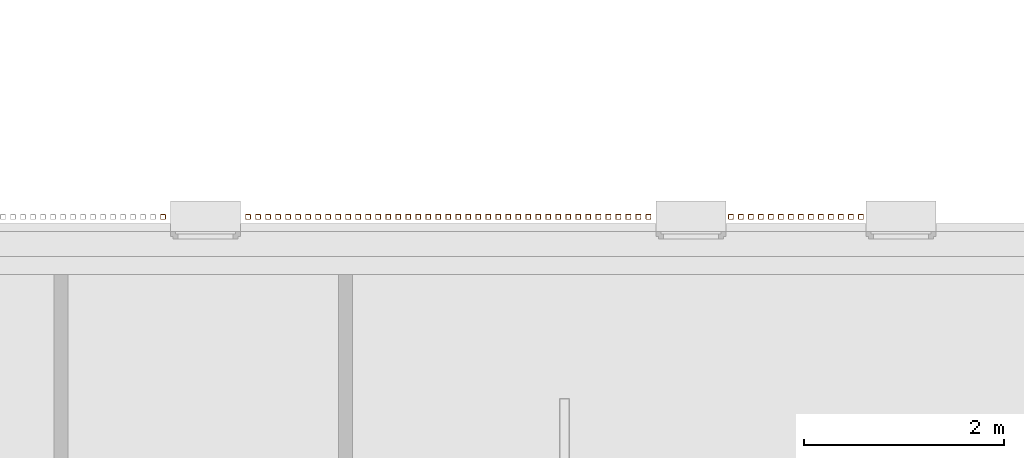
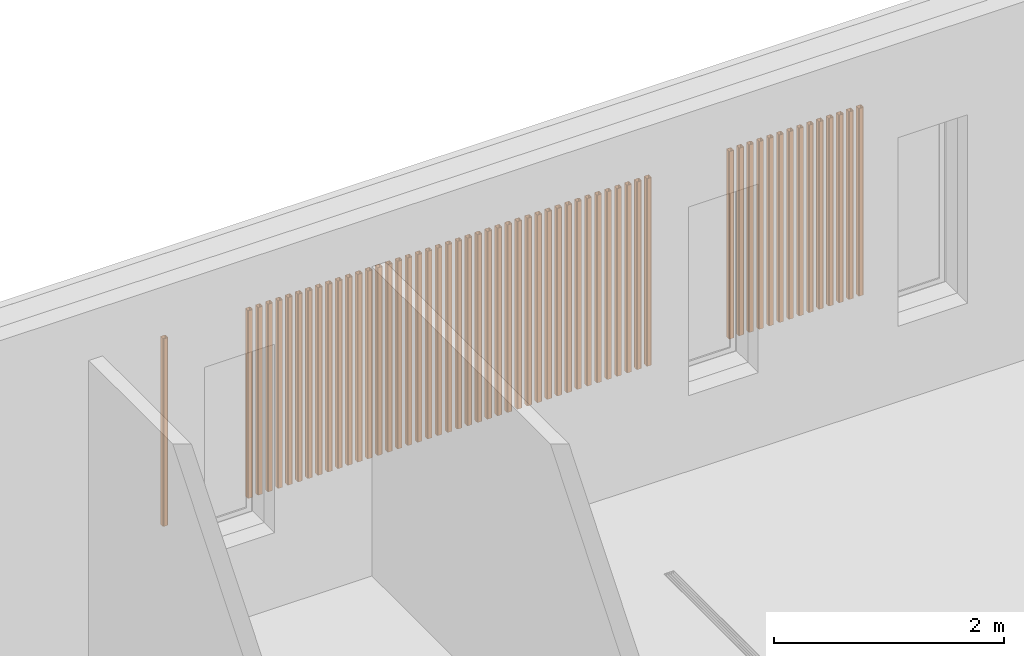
# One storey, part 76 of 112: 56 proxies.
"""IFC2X3 building model written with IfcOpenShell, lengths in millimetres."""

from ifc_helpers import new_model, entity, si_unit, converted_unit, derived_unit, money_unit, direction, frame, origin_with_axes, place, context, subcontext, project, spatial, faceted_brep, source, transform, mapped, material, type_object, element, save


model = new_model("IFC2X3")

# Units and contexts
model_context = context("Model", 3, precision=0.01, world=origin_with_axes(), true_north=direction((0.0, 1.0)))
body_context = subcontext(model_context, "Body", "Model", "MODEL_VIEW")
ifc_project = project(units=[si_unit("LENGTHUNIT", "METRE", prefix="MILLI"), si_unit("AREAUNIT", "SQUARE_METRE"), si_unit("VOLUMEUNIT", "CUBIC_METRE"), converted_unit("PLANEANGLEUNIT", "DEGREE", entity("IfcPlaneAngleMeasure", 0.0174532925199), si_unit("PLANEANGLEUNIT", "RADIAN"), dimensions=[0, 0, 0, 0, 0, 0, 0]), si_unit("SOLIDANGLEUNIT", "STERADIAN"), money_unit("EUR"), converted_unit("TIMEUNIT", "Year", entity("IfcTimeMeasure", 31556926.0), si_unit("TIMEUNIT", "SECOND"), dimensions=[0, 0, 1, 0, 0, 0, 0]), si_unit("MASSUNIT", "GRAM", prefix="KILO"), si_unit("THERMODYNAMICTEMPERATUREUNIT", "DEGREE_CELSIUS"), si_unit("LUMINOUSINTENSITYUNIT", "LUMEN"), si_unit("ENERGYUNIT", "JOULE", prefix="MEGA"), derived_unit("THERMALCONDUCTANCEUNIT", [(si_unit("POWERUNIT", "WATT"), 1), (si_unit("LENGTHUNIT", "METRE"), -1), (si_unit("THERMODYNAMICTEMPERATUREUNIT", "KELVIN"), -1)]), derived_unit("SPECIFICHEATCAPACITYUNIT", [(si_unit("ENERGYUNIT", "JOULE"), 1), (si_unit("MASSUNIT", "GRAM", prefix="KILO"), -1), (si_unit("THERMODYNAMICTEMPERATUREUNIT", "KELVIN"), -1)]), derived_unit("MASSDENSITYUNIT", [(si_unit("MASSUNIT", "GRAM", prefix="KILO"), 1), (si_unit("VOLUMEUNIT", "CUBIC_METRE"), -1)])], contexts=[model_context])

# Site, building, storey
site_placement = place(None, origin_with_axes())
site = spatial("IfcSite", under=ifc_project, at=site_placement, Name="Politse- ja Piirivalveameti ning Päästeameti ühishoone", CompositionType="ELEMENT")
building_placement = place(site_placement, origin_with_axes())
building = spatial("IfcBuilding", under=site, at=building_placement, Name="Politse- ja Piirivalveameti ning Päästeameti ühishoone", CompositionType="ELEMENT")
storey_placement = place(building_placement, origin_with_axes())
storey = spatial("IfcBuildingStorey", under=building, at=storey_placement, Name="Esimene korrus", CompositionType="ELEMENT", Elevation=0.0)

# Proxies
ifc_material = material(Name="ET-05_Teras")
building_element_proxy_type = type_object("IfcBuildingElementProxyType", Name="SHS Cold-Formed Column 23", PredefinedType="NOTDEFINED")
shared_shape = source(origin_with_axes(), body_context, "Body", "Brep", [
    faceted_brep([(19.0, -25.0, 0.0), (19.0, -25.0, 1990.0), (-19.0, -25.0, 1990.0), (-19.0, -25.0, 0.0), (23.2426406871, -23.2426406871, 0.0), (23.2426406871, -23.2426406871, 1990.0), (25.0, -19.0, 1990.0), (25.0, 19.0, 1990.0), (23.2426406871, 23.2426406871, 1990.0), (19.0, 25.0, 1990.0), (-19.0, 25.0, 1990.0), (-23.2426406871, 23.2426406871, 1990.0), (-25.0, 19.0, 1990.0), (-25.0, -19.0, 1990.0), (-23.2426406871, -23.2426406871, 1990.0), (19.0, -22.0, 1990.0), (-19.0, -22.0, 1990.0), (-21.1213203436, -21.1213203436, 1990.0), (-22.0, -19.0, 1990.0), (-22.0, 19.0, 1990.0), (-21.1213203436, 21.1213203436, 1990.0), (-19.0, 22.0, 1990.0), (19.0, 22.0, 1990.0), (21.1213203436, 21.1213203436, 1990.0), (22.0, 19.0, 1990.0), (22.0, -19.0, 1990.0), (21.1213203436, -21.1213203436, 1990.0), (-23.2426406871, -23.2426406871, 0.0), (-25.0, -19.0, 0.0), (-25.0, 19.0, 0.0), (-23.2426406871, 23.2426406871, 0.0), (-19.0, 25.0, 0.0), (19.0, 25.0, 0.0), (23.2426406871, 23.2426406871, 0.0), (25.0, 19.0, 0.0), (25.0, -19.0, 0.0), (19.0, -22.0, 0.0), (21.1213203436, -21.1213203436, 0.0), (22.0, -19.0, 0.0), (22.0, 19.0, 0.0), (21.1213203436, 21.1213203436, 0.0), (19.0, 22.0, 0.0), (-19.0, 22.0, 0.0), (-21.1213203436, 21.1213203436, 0.0), (-22.0, 19.0, 0.0), (-22.0, -19.0, 0.0), (-21.1213203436, -21.1213203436, 0.0), (-19.0, -22.0, 0.0)], [[[0, 1, 2, 3]], [[4, 5, 1, 0]], [[1, 5, 6, 7, 8, 9, 10, 11, 12, 13, 14, 2], [15, 16, 17, 18, 19, 20, 21, 22, 23, 24, 25, 26]], [[3, 2, 14, 27]], [[0, 3, 27, 28, 29, 30, 31, 32, 33, 34, 35, 4], [36, 37, 38, 39, 40, 41, 42, 43, 44, 45, 46, 47]], [[35, 6, 5, 4]], [[34, 7, 6, 35]], [[33, 8, 7, 34]], [[32, 9, 8, 33]], [[31, 10, 9, 32]], [[30, 11, 10, 31]], [[29, 12, 11, 30]], [[28, 13, 12, 29]], [[27, 14, 13, 28]], [[47, 16, 15, 36]], [[46, 17, 16, 47]], [[45, 18, 17, 46]], [[44, 19, 18, 45]], [[43, 20, 19, 44]], [[42, 21, 20, 43]], [[41, 22, 21, 42]], [[40, 23, 22, 41]], [[39, 24, 23, 40]], [[38, 25, 24, 39]], [[37, 26, 25, 38]], [[36, 15, 26, 37]]]),
])
for number, where, z_axis, x_axis in (
    (1, (55784.5448808, 21574.5962726, 810.0), (0.0, 0.0, 1.0), (1.30049800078e-07, -1.0, 0.0)),
    (2, (55884.5448808, 21574.5962856, 810.0), (0.0, 0.0, 1.0), (1.30049800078e-07, -1.0, 0.0)),
    (3, (55984.5448808, 21574.5962986, 810.0), (0.0, 0.0, 1.0), (1.30049800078e-07, -1.0, 0.0)),
    (4, (56084.5448808, 21574.5963116, 810.0), (0.0, 0.0, 1.0), (1.30049800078e-07, -1.0, 0.0)),
    (5, (56184.5448808, 21574.5963246, 810.0), (0.0, 0.0, 1.0), (1.30049800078e-07, -1.0, 0.0)),
    (6, (55284.5448808, 21574.5962075, 810.0), (0.0, 0.0, 1.0), (1.30049800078e-07, -1.0, 0.0)),
    (7, (55384.5448808, 21574.5962205, 810.0), (0.0, 0.0, 1.0), (1.30049800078e-07, -1.0, 0.0)),
    (8, (55484.5448808, 21574.5962336, 810.0), (0.0, 0.0, 1.0), (1.30049800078e-07, -1.0, 0.0)),
    (9, (55584.5448808, 21574.5962466, 810.0), (0.0, 0.0, 1.0), (1.30049800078e-07, -1.0, 0.0)),
    (10, (55684.5448808, 21574.5962596, 810.0), (0.0, 0.0, 1.0), (1.30049800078e-07, -1.0, 0.0)),
    (11, (54884.5448808, 21574.5961555, 810.0), (0.0, 0.0, 1.0), (1.30049800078e-07, -1.0, 0.0)),
    (12, (54984.5448808, 21574.5961685, 810.0), (0.0, 0.0, 1.0), (1.30049800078e-07, -1.0, 0.0)),
    (13, (55084.5448808, 21574.5961815, 810.0), (0.0, 0.0, 1.0), (1.30049800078e-07, -1.0, 0.0)),
    (14, (55184.5448808, 21574.5961945, 810.0), (0.0, 0.0, 1.0), (1.30049800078e-07, -1.0, 0.0)),
    (15, (53659.5448808, 21574.5962726, 810.0), (0.0, 0.0, 1.0), (1.30049800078e-07, -1.0, 0.0)),
    (16, (53759.5448808, 21574.5962856, 810.0), (0.0, 0.0, 1.0), (1.30049800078e-07, -1.0, 0.0)),
    (17, (53859.5448808, 21574.5962986, 810.0), (0.0, 0.0, 1.0), (1.30049800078e-07, -1.0, 0.0)),
    (18, (53959.5448808, 21574.5963116, 810.0), (0.0, 0.0, 1.0), (1.30049800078e-07, -1.0, 0.0)),
    (19, (54059.5448808, 21574.5963246, 810.0), (0.0, 0.0, 1.0), (1.30049800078e-07, -1.0, 0.0)),
    (20, (53159.5448808, 21574.5962075, 810.0), (0.0, 0.0, 1.0), (1.30049800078e-07, -1.0, 0.0)),
    (21, (53259.5448808, 21574.5962205, 810.0), (0.0, 0.0, 1.0), (1.30049800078e-07, -1.0, 0.0)),
    (22, (53359.5448808, 21574.5962336, 810.0), (0.0, 0.0, 1.0), (1.30049800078e-07, -1.0, 0.0)),
    (23, (53459.5448808, 21574.5962466, 810.0), (0.0, 0.0, 1.0), (1.30049800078e-07, -1.0, 0.0)),
    (24, (53559.5448808, 21574.5962596, 810.0), (0.0, 0.0, 1.0), (1.30049800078e-07, -1.0, 0.0)),
    (25, (52759.5448808, 21574.5961555, 810.0), (0.0, 0.0, 1.0), (1.30049800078e-07, -1.0, 0.0)),
    (26, (52859.5448808, 21574.5961685, 810.0), (0.0, 0.0, 1.0), (1.30049800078e-07, -1.0, 0.0)),
    (27, (52959.5448808, 21574.5961815, 810.0), (0.0, 0.0, 1.0), (1.30049800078e-07, -1.0, 0.0)),
    (28, (53059.5448808, 21574.5961945, 810.0), (0.0, 0.0, 1.0), (1.30049800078e-07, -1.0, 0.0)),
    (29, (52259.5448808, 21574.5960905, 810.0), (0.0, 0.0, 1.0), (1.30049800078e-07, -1.0, 0.0)),
    (30, (52359.5448808, 21574.5961035, 810.0), (0.0, 0.0, 1.0), (1.30049800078e-07, -1.0, 0.0)),
    (31, (52459.5448808, 21574.5961165, 810.0), (0.0, 0.0, 1.0), (1.30049800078e-07, -1.0, 0.0)),
    (32, (52559.5448808, 21574.5961295, 810.0), (0.0, 0.0, 1.0), (1.30049800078e-07, -1.0, 0.0)),
    (33, (52659.5448808, 21574.5961425, 810.0), (0.0, 0.0, 1.0), (1.30049800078e-07, -1.0, 0.0)),
    (34, (51759.5448808, 21574.5960255, 810.0), (0.0, 0.0, 1.0), (1.30049800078e-07, -1.0, 0.0)),
    (35, (51859.5448808, 21574.5960385, 810.0), (0.0, 0.0, 1.0), (1.30049800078e-07, -1.0, 0.0)),
    (36, (51959.5448808, 21574.5960515, 810.0), (0.0, 0.0, 1.0), (1.30049800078e-07, -1.0, 0.0)),
    (37, (52059.5448808, 21574.5960645, 810.0), (0.0, 0.0, 1.0), (1.30049800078e-07, -1.0, 0.0)),
    (38, (52159.5448808, 21574.5960775, 810.0), (0.0, 0.0, 1.0), (1.30049800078e-07, -1.0, 0.0)),
    (39, (51359.5448808, 21574.5959735, 810.0), (0.0, 0.0, 1.0), (1.30049800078e-07, -1.0, 0.0)),
    (40, (51459.5448808, 21574.5959865, 810.0), (0.0, 0.0, 1.0), (1.30049800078e-07, -1.0, 0.0)),
    (41, (51559.5448808, 21574.5959995, 810.0), (0.0, 0.0, 1.0), (1.30049800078e-07, -1.0, 0.0)),
    (42, (51659.5448808, 21574.5960125, 810.0), (0.0, 0.0, 1.0), (1.30049800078e-07, -1.0, 0.0)),
    (43, (50859.5448808, 21574.5959084, 810.0), (0.0, 0.0, 1.0), (1.30049800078e-07, -1.0, 0.0)),
    (44, (50959.5448808, 21574.5959214, 810.0), (0.0, 0.0, 1.0), (1.30049800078e-07, -1.0, 0.0)),
    (45, (51059.5448808, 21574.5959344, 810.0), (0.0, 0.0, 1.0), (1.30049800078e-07, -1.0, 0.0)),
    (46, (51159.5448808, 21574.5959474, 810.0), (0.0, 0.0, 1.0), (1.30049800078e-07, -1.0, 0.0)),
    (47, (51259.5448808, 21574.5959604, 810.0), (0.0, 0.0, 1.0), (1.30049800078e-07, -1.0, 0.0)),
    (48, (50359.5448808, 21574.5958434, 810.0), (0.0, 0.0, 1.0), (1.30049800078e-07, -1.0, 0.0)),
    (49, (50459.5448808, 21574.5958564, 810.0), (0.0, 0.0, 1.0), (1.30049800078e-07, -1.0, 0.0)),
    (50, (50559.5448808, 21574.5958694, 810.0), (0.0, 0.0, 1.0), (1.30049800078e-07, -1.0, 0.0)),
    (51, (50659.5448808, 21574.5958824, 810.0), (0.0, 0.0, 1.0), (1.30049800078e-07, -1.0, 0.0)),
    (52, (50759.5448808, 21574.5958954, 810.0), (0.0, 0.0, 1.0), (1.30049800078e-07, -1.0, 0.0)),
    (53, (50059.5448808, 21574.5958044, 810.0), (0.0, 0.0, 1.0), (1.30049800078e-07, -1.0, 0.0)),
    (54, (50159.5448808, 21574.5958174, 810.0), (0.0, 0.0, 1.0), (1.30049800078e-07, -1.0, 0.0)),
    (55, (50259.5448808, 21574.5958304, 810.0), (0.0, 0.0, 1.0), (1.30049800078e-07, -1.0, 0.0)),
    (56, (49209.3113758, 21574.5960775, 810.0), (0.0, 0.0, 1.0), (1.30049800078e-07, -1.0, 0.0)),
):
    element("IfcBuildingElementProxy", number, at=place(storey_placement, frame(where, z_axis=z_axis, x_axis=x_axis)), inside=storey, type_object=building_element_proxy_type, material=ifc_material, Name="Fassaadiribid", context=body_context, shape_type="MappedRepresentation", body=[
        mapped(shared_shape, transform((0.0, 0.0, 0.0))),
    ])

save(model, "model.ifc")
